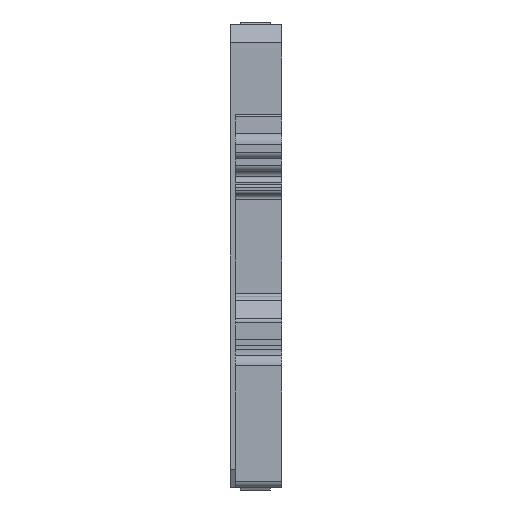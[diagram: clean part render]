
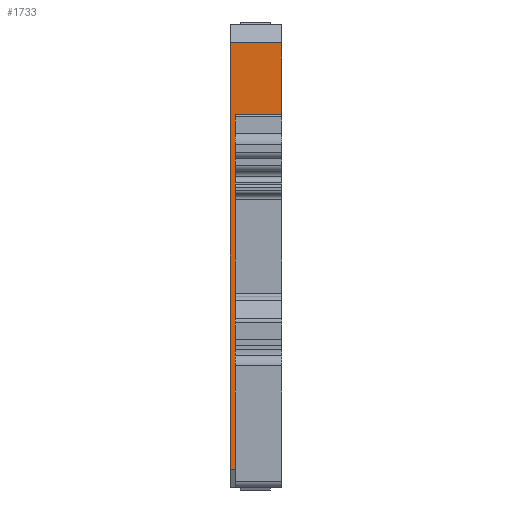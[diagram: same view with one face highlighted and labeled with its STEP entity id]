
A CAD part, left-side view. The second image highlights one B-rep face of the part: STEP entity #1733.
In plain terms, the highlighted planar face has unit normal (-1, 0, 0).
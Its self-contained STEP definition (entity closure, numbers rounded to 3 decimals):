
#1733=ADVANCED_FACE('',(#18528),#18530,.T.);
#18528=FACE_BOUND('',#18529,.T.);
#18529=EDGE_LOOP('',(#31907,#31908,#31909,#31910,#31911,#31912,#31913,#31914,#31915,
#31916,#31917,#31918,#31919,#31920));
#18530=PLANE('',#18531);
#18531=AXIS2_PLACEMENT_3D('',#18532,#18533,#18534);
#18532=CARTESIAN_POINT('',(12.8,0.,0.));
#18533=DIRECTION('',(-1.,0.,0.));
#18534=DIRECTION('',(0.,0.,1.));
#31907=ORIENTED_EDGE('',*,*,#42013,.T.);
#31908=ORIENTED_EDGE('',*,*,#42195,.T.);
#31909=ORIENTED_EDGE('',*,*,#42147,.F.);
#31910=ORIENTED_EDGE('',*,*,#42196,.F.);
#31911=ORIENTED_EDGE('',*,*,#42197,.T.);
#31912=ORIENTED_EDGE('',*,*,#42198,.F.);
#31913=ORIENTED_EDGE('',*,*,#42108,.T.);
#31914=ORIENTED_EDGE('',*,*,#42199,.T.);
#31915=ORIENTED_EDGE('',*,*,#42200,.T.);
#31916=ORIENTED_EDGE('',*,*,#42201,.T.);
#31917=ORIENTED_EDGE('',*,*,#42202,.T.);
#31918=ORIENTED_EDGE('',*,*,#42203,.T.);
#31919=ORIENTED_EDGE('',*,*,#42204,.T.);
#31920=ORIENTED_EDGE('',*,*,#42205,.F.);
#42013=EDGE_CURVE('',#47734,#47735,#47736,.T.);
#42108=EDGE_CURVE('',#47924,#47922,#47925,.T.);
#42147=EDGE_CURVE('',#47999,#48001,#48002,.T.);
#42195=EDGE_CURVE('',#47735,#48001,#48074,.T.);
#42196=EDGE_CURVE('',#48075,#47999,#48076,.T.);
#42197=EDGE_CURVE('',#48075,#48077,#48078,.T.);
#42198=EDGE_CURVE('',#47924,#48077,#48079,.T.);
#42199=EDGE_CURVE('',#47922,#48080,#48081,.T.);
#42200=EDGE_CURVE('',#48080,#48082,#48083,.T.);
#42201=EDGE_CURVE('',#48082,#48084,#48085,.T.);
#42202=EDGE_CURVE('',#48084,#48086,#48087,.T.);
#42203=EDGE_CURVE('',#48086,#48088,#48089,.T.);
#42204=EDGE_CURVE('',#48088,#48090,#48091,.T.);
#42205=EDGE_CURVE('',#47734,#48090,#48092,.T.);
#47734=VERTEX_POINT('',#57771);
#47735=VERTEX_POINT('',#57772);
#47736=LINE('',#57773,#57774);
#47922=VERTEX_POINT('',#58180);
#47924=VERTEX_POINT('',#58185);
#47925=LINE('',#58186,#58187);
#47999=VERTEX_POINT('',#58349);
#48001=VERTEX_POINT('',#58353);
#48002=LINE('',#58354,#58355);
#48074=LINE('',#58522,#58523);
#48075=VERTEX_POINT('',#58525);
#48076=LINE('',#58526,#58527);
#48077=VERTEX_POINT('',#58529);
#48078=LINE('',#58530,#58531);
#48079=LINE('',#58533,#58534);
#48080=VERTEX_POINT('',#58536);
#48081=LINE('',#58537,#58538);
#48082=VERTEX_POINT('',#58540);
#48083=LINE('',#58541,#58542);
#48084=VERTEX_POINT('',#58544);
#48085=LINE('',#58545,#58546);
#48086=VERTEX_POINT('',#58548);
#48087=LINE('',#58549,#58550);
#48088=VERTEX_POINT('',#58552);
#48089=LINE('',#58553,#58554);
#48090=VERTEX_POINT('',#58556);
#48091=LINE('',#58557,#58558);
#48092=LINE('',#58560,#58561);
#57771=CARTESIAN_POINT('',(12.8,0.,64.55));
#57772=CARTESIAN_POINT('',(12.8,0.,76.882));
#57773=CARTESIAN_POINT('',(12.8,0.,64.55));
#57774=VECTOR('',#57775,1.);
#57775=DIRECTION('',(0.,0.,1.));
#58180=CARTESIAN_POINT('',(12.8,0.,17.642));
#58185=CARTESIAN_POINT('',(12.8,0.,6.3));
#58186=CARTESIAN_POINT('',(12.8,0.,6.3));
#58187=VECTOR('',#58188,1.);
#58188=DIRECTION('',(0.,0.,1.));
#58349=CARTESIAN_POINT('',(12.8,8.9,3.118));
#58353=CARTESIAN_POINT('',(12.8,8.9,76.882));
#58354=CARTESIAN_POINT('',(12.8,8.9,3.118));
#58355=VECTOR('',#58356,1.);
#58356=DIRECTION('',(0.,0.,1.));
#58522=CARTESIAN_POINT('',(12.8,0.,76.882));
#58523=VECTOR('',#58524,1.);
#58524=DIRECTION('',(0.,1.,0.));
#58525=CARTESIAN_POINT('',(12.8,8.,3.118));
#58526=CARTESIAN_POINT('',(12.8,8.,3.118));
#58527=VECTOR('',#58528,1.);
#58528=DIRECTION('',(0.,1.,0.));
#58529=CARTESIAN_POINT('',(12.8,8.,6.3));
#58530=CARTESIAN_POINT('',(12.8,8.,3.118));
#58531=VECTOR('',#58532,1.);
#58532=DIRECTION('',(0.,0.,1.));
#58533=CARTESIAN_POINT('',(12.8,0.,6.3));
#58534=VECTOR('',#58535,1.);
#58535=DIRECTION('',(0.,1.,0.));
#58536=CARTESIAN_POINT('',(12.8,8.,17.642));
#58537=CARTESIAN_POINT('',(12.8,0.,17.642));
#58538=VECTOR('',#58539,1.);
#58539=DIRECTION('',(0.,1.,0.));
#58540=CARTESIAN_POINT('',(12.8,8.,19.742));
#58541=CARTESIAN_POINT('',(12.8,8.,17.642));
#58542=VECTOR('',#58543,1.);
#58543=DIRECTION('',(0.,0.,1.));
#58544=CARTESIAN_POINT('',(12.8,8.,38.4));
#58545=CARTESIAN_POINT('',(12.8,8.,19.742));
#58546=VECTOR('',#58547,1.);
#58547=DIRECTION('',(0.,0.,1.));
#58548=CARTESIAN_POINT('',(12.8,8.,41.6));
#58549=CARTESIAN_POINT('',(12.8,8.,38.4));
#58550=VECTOR('',#58551,1.);
#58551=DIRECTION('',(0.,0.,1.));
#58552=CARTESIAN_POINT('',(12.8,8.,62.752));
#58553=CARTESIAN_POINT('',(12.8,8.,41.6));
#58554=VECTOR('',#58555,1.);
#58555=DIRECTION('',(0.,0.,1.));
#58556=CARTESIAN_POINT('',(12.8,8.,64.55));
#58557=CARTESIAN_POINT('',(12.8,8.,62.752));
#58558=VECTOR('',#58559,1.);
#58559=DIRECTION('',(0.,0.,1.));
#58560=CARTESIAN_POINT('',(12.8,0.,64.55));
#58561=VECTOR('',#58562,1.);
#58562=DIRECTION('',(0.,1.,0.));
